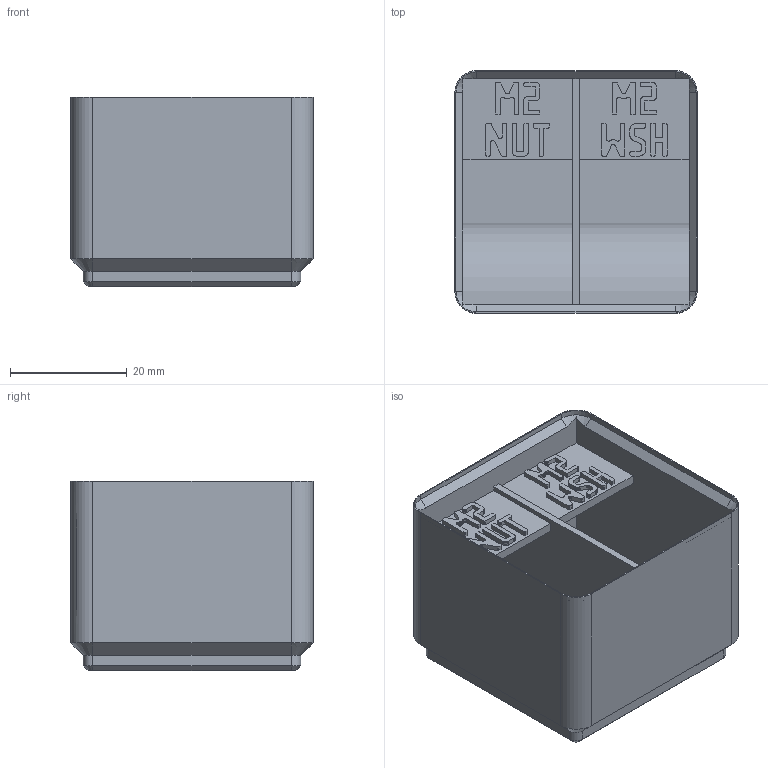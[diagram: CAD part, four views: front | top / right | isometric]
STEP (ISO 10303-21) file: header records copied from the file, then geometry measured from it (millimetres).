
FILE_DESCRIPTION(('Open CASCADE Model'),'2;1');
FILE_NAME('Open CASCADE Shape Model','2026-11-16T17:31:15',('Author'),( 'Open CASCADE'),'Open CASCADE STEP processor 8.0','build123d', 'Unknown');
FILE_SCHEMA(('AUTOMOTIVE_DESIGN { 1 0 10303 214 1 1 1 1 }'));
Products named in the file (1): SOLID
Bounding box: 41.5 x 41.5 x 32.4 mm (x, y, z)
Volume: 25452.6 mm3; surface area: 13439.1 mm2
Topology: 1 solids, 1 shells, 1136 faces, 3331 edges, 2210 vertices
Faces by surface type: plane 1110, cylinder 14, cone 12
Entity records: 78122 total; most frequent: CARTESIAN_POINT 15718, DIRECTION 10083, LINE 7709, VECTOR 7709, ORIENTED_EDGE 6662, PCURVE 6662, DEFINITIONAL_REPRESENTATION 6662, EDGE_CURVE 3331
